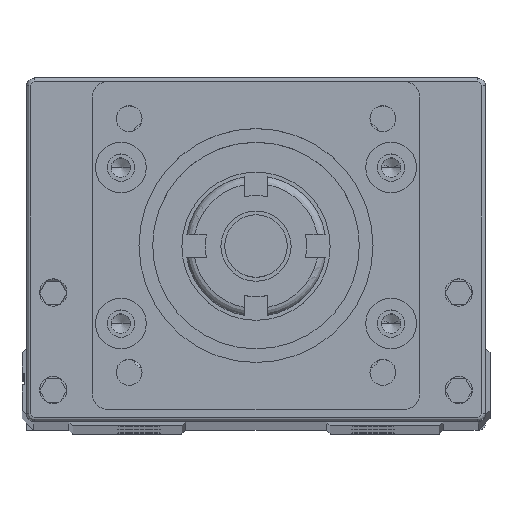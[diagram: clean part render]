
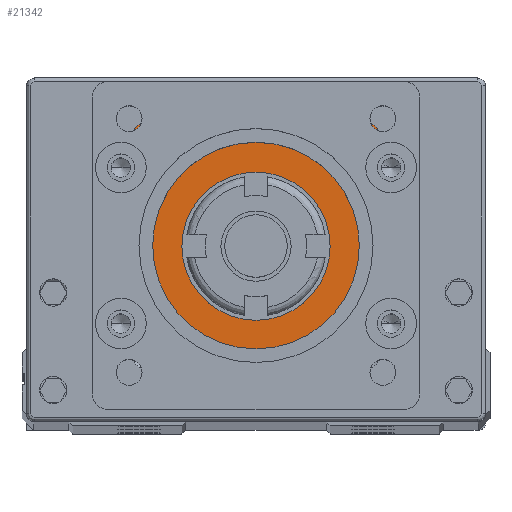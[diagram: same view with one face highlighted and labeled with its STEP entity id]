
A CAD part, top view. The second image highlights one B-rep face of the part: STEP entity #21342.
In plain terms, the highlighted planar face has unit normal (0, 0, 1).
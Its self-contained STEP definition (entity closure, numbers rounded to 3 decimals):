
#1004 = CIRCLE ( 'NONE', #4337, 9.5 ) ;
#1599 = EDGE_CURVE ( 'NONE', #28686, #29297, #37202, .T. ) ;
#1870 = DIRECTION ( 'NONE',  ( 0., -1., 0. ) ) ;
#2550 = EDGE_CURVE ( 'NONE', #61454, #11676, #28339, .T. ) ;
#3342 = CARTESIAN_POINT ( 'NONE',  ( 12.935, 29.398, 318.5 ) ) ;
#3387 = CARTESIAN_POINT ( 'NONE',  ( 60.735, 26.398, 318.5 ) ) ;
#3484 = CARTESIAN_POINT ( 'NONE',  ( 51.735, 29.398, 318.5 ) ) ;
#4337 = AXIS2_PLACEMENT_3D ( 'NONE', #37622, #64478, #59176 ) ;
#4381 = AXIS2_PLACEMENT_3D ( 'NONE', #27539, #65693, #1870 ) ;
#4530 = VECTOR ( 'NONE', #48343, 1000. ) ;
#6471 = CARTESIAN_POINT ( 'NONE',  ( 12.335, 26.398, 318.5 ) ) ;
#6819 = VERTEX_POINT ( 'NONE', #43474 ) ;
#6922 = CIRCLE ( 'NONE', #46381, 9.5 ) ;
#7674 = ORIENTED_EDGE ( 'NONE', *, *, #51560, .F. ) ;
#8461 = CARTESIAN_POINT ( 'NONE',  ( 12.935, 29.398, 318.5 ) ) ;
#8830 = LINE ( 'NONE', #8461, #49922 ) ;
#9082 = VECTOR ( 'NONE', #66898, 1000. ) ;
#9585 = VECTOR ( 'NONE', #48699, 1000. ) ;
#10539 = VECTOR ( 'NONE', #61732, 1000. ) ;
#11676 = VERTEX_POINT ( 'NONE', #63172 ) ;
#11921 = CIRCLE ( 'NONE', #38806, 14. ) ;
#12231 = EDGE_CURVE ( 'NONE', #15669, #65156, #35438, .T. ) ;
#13157 = VERTEX_POINT ( 'NONE', #22337 ) ;
#13308 = CARTESIAN_POINT ( 'NONE',  ( 52.335, 32.398, 318.5 ) ) ;
#14559 = ORIENTED_EDGE ( 'NONE', *, *, #2550, .F. ) ;
#14603 = LINE ( 'NONE', #3342, #55684 ) ;
#15126 = CARTESIAN_POINT ( 'NONE',  ( 3.935, 29.398, 318.5 ) ) ;
#15669 = VERTEX_POINT ( 'NONE', #16873 ) ;
#16219 = LINE ( 'NONE', #69519, #9585 ) ;
#16262 = VERTEX_POINT ( 'NONE', #47609 ) ;
#16463 = ORIENTED_EDGE ( 'NONE', *, *, #51188, .F. ) ;
#16873 = CARTESIAN_POINT ( 'NONE',  ( 52.335, 44.398, 318.5 ) ) ;
#16994 = VECTOR ( 'NONE', #29743, 1000. ) ;
#17249 = LINE ( 'NONE', #23564, #10539 ) ;
#17619 = VECTOR ( 'NONE', #45576, 1000. ) ;
#17897 = CARTESIAN_POINT ( 'NONE',  ( 41.835, 23.898, 318.5 ) ) ;
#18152 = VERTEX_POINT ( 'NONE', #48408 ) ;
#19151 = DIRECTION ( 'NONE',  ( 0., 0., 1. ) ) ;
#19548 = VECTOR ( 'NONE', #48501, 1000. ) ;
#20015 = ORIENTED_EDGE ( 'NONE', *, *, #1599, .F. ) ;
#21342 = ADVANCED_FACE ( 'NONE', ( #60073, #33198 ), #44879, .F. ) ;
#21800 = DIRECTION ( 'NONE',  ( -1., 0., 0. ) ) ;
#21891 = ORIENTED_EDGE ( 'NONE', *, *, #48552, .F. ) ;
#22337 = CARTESIAN_POINT ( 'NONE',  ( 60.735, 29.398, 318.5 ) ) ;
#23022 = CARTESIAN_POINT ( 'NONE',  ( 12.935, 26.398, 318.5 ) ) ;
#23092 = VECTOR ( 'NONE', #55164, 1000. ) ;
#23274 = ORIENTED_EDGE ( 'NONE', *, *, #57971, .T. ) ;
#23564 = CARTESIAN_POINT ( 'NONE',  ( 12.935, 44.398, 318.5 ) ) ;
#24013 = LINE ( 'NONE', #50831, #17619 ) ;
#24152 = VECTOR ( 'NONE', #21800, 1000. ) ;
#24318 = ORIENTED_EDGE ( 'NONE', *, *, #59431, .F. ) ;
#24798 = EDGE_CURVE ( 'NONE', #18152, #50789, #16219, .T. ) ;
#24900 = EDGE_LOOP ( 'NONE', ( #45273, #14559, #24318, #52358, #35810, #20015, #21891, #16463, #23274, #32377, #38414, #36622, #67589, #54477 ) ) ;
#25301 = EDGE_CURVE ( 'NONE', #61864, #18152, #24013, .T. ) ;
#25357 = DIRECTION ( 'NONE',  ( 1., 0., 0. ) ) ;
#25706 = DIRECTION ( 'NONE',  ( 0., 0., -1. ) ) ;
#26517 = EDGE_CURVE ( 'NONE', #60149, #50786, #1004, .T. ) ;
#27294 = EDGE_CURVE ( 'NONE', #29297, #6819, #57892, .T. ) ;
#27511 = CARTESIAN_POINT ( 'NONE',  ( 22.835, 23.898, 318.5 ) ) ;
#27539 = CARTESIAN_POINT ( 'NONE',  ( 12.935, 26.398, 318.5 ) ) ;
#28339 = LINE ( 'NONE', #23022, #48105 ) ;
#28686 = VERTEX_POINT ( 'NONE', #3484 ) ;
#29220 = VECTOR ( 'NONE', #63358, 1000. ) ;
#29297 = VERTEX_POINT ( 'NONE', #52208 ) ;
#29743 = DIRECTION ( 'NONE',  ( 0., -1., 0. ) ) ;
#30808 = LINE ( 'NONE', #3387, #16994 ) ;
#31351 = CARTESIAN_POINT ( 'NONE',  ( 12.935, 12.398, 318.5 ) ) ;
#31689 = LINE ( 'NONE', #53246, #24152 ) ;
#32377 = ORIENTED_EDGE ( 'NONE', *, *, #12231, .F. ) ;
#33198 = FACE_OUTER_BOUND ( 'NONE', #24900, .T. ) ;
#35438 = LINE ( 'NONE', #40087, #9082 ) ;
#35810 = ORIENTED_EDGE ( 'NONE', *, *, #27294, .F. ) ;
#36490 = EDGE_CURVE ( 'NONE', #16262, #15669, #17249, .T. ) ;
#36558 = CARTESIAN_POINT ( 'NONE',  ( 12.935, 12.398, 318.5 ) ) ;
#36622 = ORIENTED_EDGE ( 'NONE', *, *, #39972, .F. ) ;
#37202 = LINE ( 'NONE', #58394, #29220 ) ;
#37622 = CARTESIAN_POINT ( 'NONE',  ( 32.335, 23.898, 318.5 ) ) ;
#38414 = ORIENTED_EDGE ( 'NONE', *, *, #36490, .F. ) ;
#38806 = AXIS2_PLACEMENT_3D ( 'NONE', #62164, #25706, #25357 ) ;
#39972 = EDGE_CURVE ( 'NONE', #50789, #16262, #64703, .T. ) ;
#40087 = CARTESIAN_POINT ( 'NONE',  ( 52.335, 26.398, 318.5 ) ) ;
#40724 = DIRECTION ( 'NONE',  ( 1., 0., 0. ) ) ;
#41251 = EDGE_CURVE ( 'NONE', #6819, #41815, #11921, .T. ) ;
#41815 = VERTEX_POINT ( 'NONE', #50011 ) ;
#43474 = CARTESIAN_POINT ( 'NONE',  ( 40.32, 12.398, 318.5 ) ) ;
#44879 = PLANE ( 'NONE',  #4381 ) ;
#45273 = ORIENTED_EDGE ( 'NONE', *, *, #52681, .F. ) ;
#45339 = DIRECTION ( 'NONE',  ( -1., 0., 0. ) ) ;
#45549 = DIRECTION ( 'NONE',  ( -1., 0., 0. ) ) ;
#45576 = DIRECTION ( 'NONE',  ( 0., 1., 0. ) ) ;
#45620 = ORIENTED_EDGE ( 'NONE', *, *, #26517, .F. ) ;
#46381 = AXIS2_PLACEMENT_3D ( 'NONE', #67545, #19151, #40724 ) ;
#46782 = VERTEX_POINT ( 'NONE', #67327 ) ;
#47609 = CARTESIAN_POINT ( 'NONE',  ( 12.335, 44.398, 318.5 ) ) ;
#48105 = VECTOR ( 'NONE', #49531, 1000. ) ;
#48343 = DIRECTION ( 'NONE',  ( -1., 0., 0. ) ) ;
#48408 = CARTESIAN_POINT ( 'NONE',  ( 3.935, 32.398, 318.5 ) ) ;
#48501 = DIRECTION ( 'NONE',  ( 0., 1., 0. ) ) ;
#48552 = EDGE_CURVE ( 'NONE', #13157, #28686, #14603, .T. ) ;
#48699 = DIRECTION ( 'NONE',  ( 1., 0., 0. ) ) ;
#48742 = CARTESIAN_POINT ( 'NONE',  ( 12.335, 32.398, 318.5 ) ) ;
#49133 = LINE ( 'NONE', #60807, #23092 ) ;
#49531 = DIRECTION ( 'NONE',  ( 0., 1., 0. ) ) ;
#49922 = VECTOR ( 'NONE', #45549, 1000. ) ;
#50011 = CARTESIAN_POINT ( 'NONE',  ( 24.351, 12.398, 318.5 ) ) ;
#50786 = VERTEX_POINT ( 'NONE', #27511 ) ;
#50789 = VERTEX_POINT ( 'NONE', #48742 ) ;
#50831 = CARTESIAN_POINT ( 'NONE',  ( 3.935, 26.398, 318.5 ) ) ;
#51188 = EDGE_CURVE ( 'NONE', #46782, #13157, #30808, .T. ) ;
#51560 = EDGE_CURVE ( 'NONE', #50786, #60149, #6922, .T. ) ;
#52208 = CARTESIAN_POINT ( 'NONE',  ( 51.735, 12.398, 318.5 ) ) ;
#52358 = ORIENTED_EDGE ( 'NONE', *, *, #41251, .F. ) ;
#52681 = EDGE_CURVE ( 'NONE', #11676, #61864, #8830, .T. ) ;
#53246 = CARTESIAN_POINT ( 'NONE',  ( 51.735, 32.398, 318.5 ) ) ;
#54477 = ORIENTED_EDGE ( 'NONE', *, *, #25301, .F. ) ;
#55164 = DIRECTION ( 'NONE',  ( -1., 0., 0. ) ) ;
#55684 = VECTOR ( 'NONE', #45339, 1000. ) ;
#57892 = LINE ( 'NONE', #31351, #4530 ) ;
#57971 = EDGE_CURVE ( 'NONE', #46782, #65156, #31689, .T. ) ;
#58394 = CARTESIAN_POINT ( 'NONE',  ( 51.735, 26.398, 318.5 ) ) ;
#59176 = DIRECTION ( 'NONE',  ( 1., 0., 0. ) ) ;
#59431 = EDGE_CURVE ( 'NONE', #41815, #61454, #49133, .T. ) ;
#60073 = FACE_BOUND ( 'NONE', #69665, .T. ) ;
#60149 = VERTEX_POINT ( 'NONE', #17897 ) ;
#60807 = CARTESIAN_POINT ( 'NONE',  ( 12.935, 12.398, 318.5 ) ) ;
#61454 = VERTEX_POINT ( 'NONE', #36558 ) ;
#61732 = DIRECTION ( 'NONE',  ( 1., 0., 0. ) ) ;
#61864 = VERTEX_POINT ( 'NONE', #15126 ) ;
#62164 = CARTESIAN_POINT ( 'NONE',  ( 32.335, 23.898, 318.5 ) ) ;
#63172 = CARTESIAN_POINT ( 'NONE',  ( 12.935, 29.398, 318.5 ) ) ;
#63358 = DIRECTION ( 'NONE',  ( 0., -1., 0. ) ) ;
#64478 = DIRECTION ( 'NONE',  ( 0., 0., 1. ) ) ;
#64703 = LINE ( 'NONE', #6471, #19548 ) ;
#65156 = VERTEX_POINT ( 'NONE', #13308 ) ;
#65693 = DIRECTION ( 'NONE',  ( 0., 0., -1. ) ) ;
#66898 = DIRECTION ( 'NONE',  ( 0., -1., 0. ) ) ;
#67327 = CARTESIAN_POINT ( 'NONE',  ( 60.735, 32.398, 318.5 ) ) ;
#67545 = CARTESIAN_POINT ( 'NONE',  ( 32.335, 23.898, 318.5 ) ) ;
#67589 = ORIENTED_EDGE ( 'NONE', *, *, #24798, .F. ) ;
#69519 = CARTESIAN_POINT ( 'NONE',  ( 12.935, 32.398, 318.5 ) ) ;
#69665 = EDGE_LOOP ( 'NONE', ( #45620, #7674 ) ) ;
